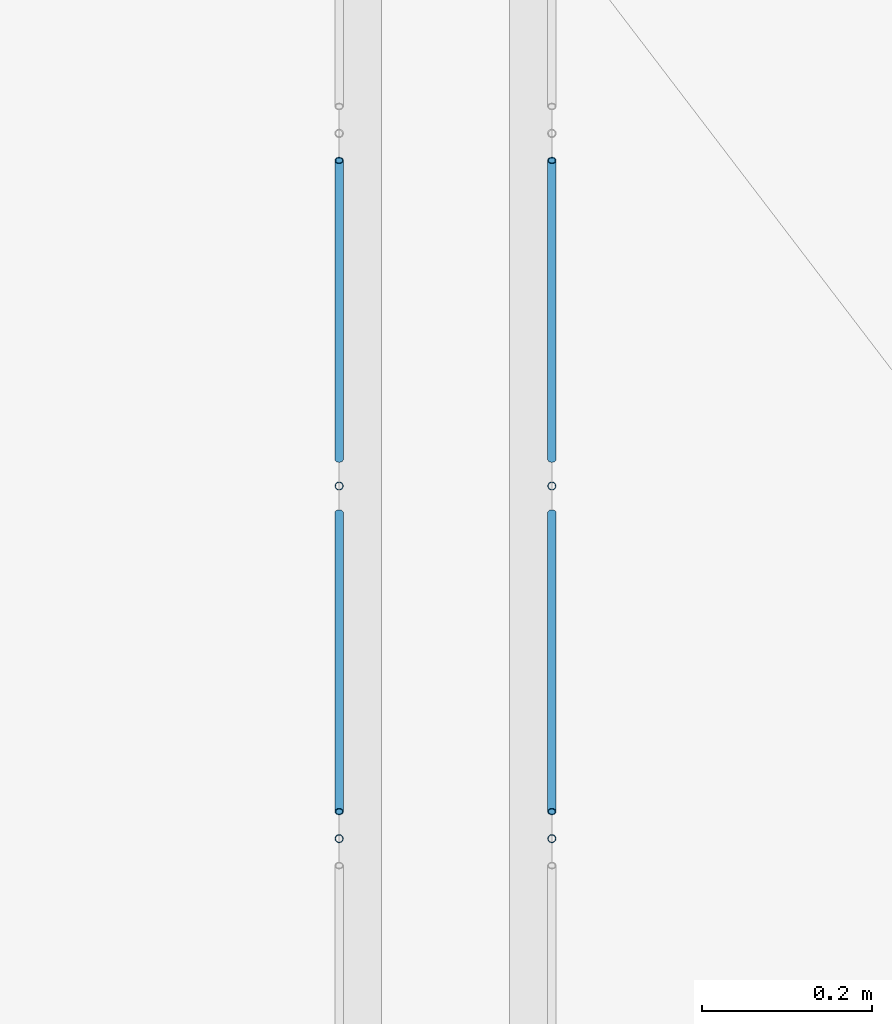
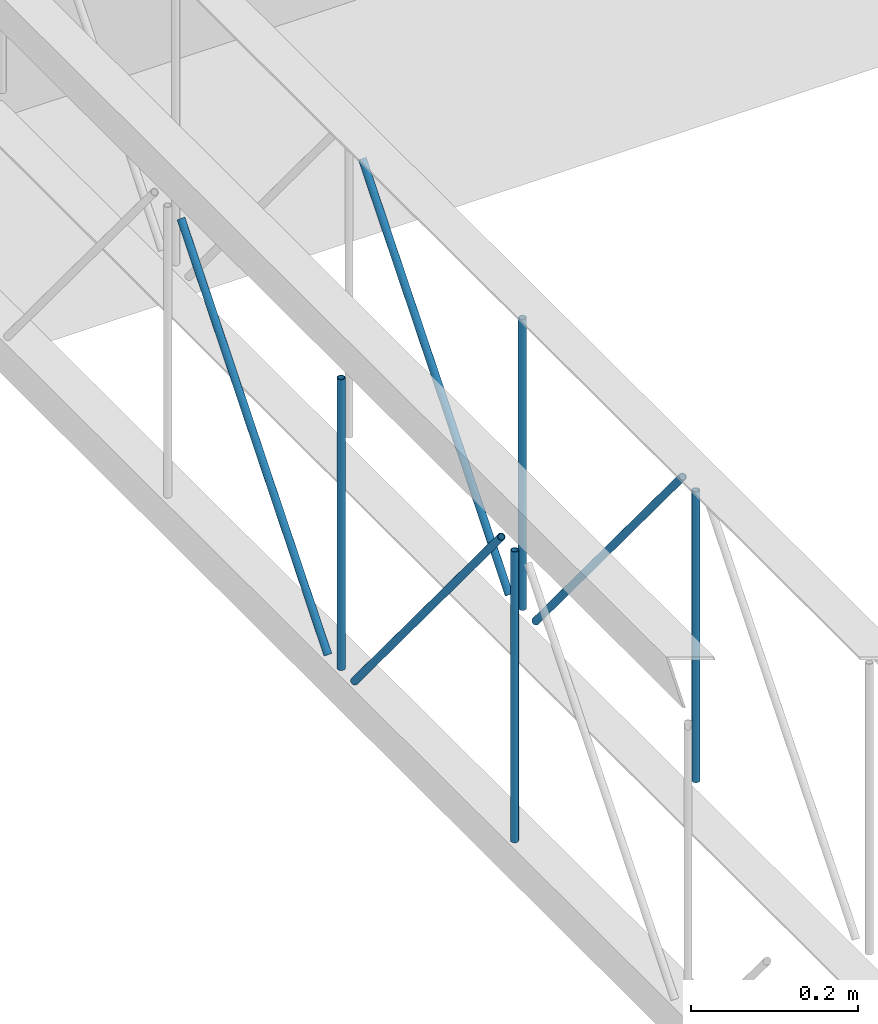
# One storey, part 96 of 153: 8 members, 2 elements without a shape of their own.
"""IFC4 building model written with IfcOpenShell, lengths in metres."""

from ifc_helpers import new_model, entity, si_unit, converted_unit, derived_unit, direction, frame, origin, place, context, subcontext, project, spatial, arc, indexed_curve, outline, extrude, source, transform, mapped, material, type_object, type_shapes, element, aggregate, save


model = new_model("IFC4")

# Units and contexts
model_context = context("Model", 3, precision=1e-05, world=origin(), true_north=direction((6.123031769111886e-17, 1.0)))
body_context = subcontext(model_context, "Body", "Model", "MODEL_VIEW")
ifc_project = project(units=[si_unit("LENGTHUNIT", "METRE"), si_unit("AREAUNIT", "SQUARE_METRE"), si_unit("VOLUMEUNIT", "CUBIC_METRE"), converted_unit("PLANEANGLEUNIT", "DEGREE", entity("IfcRatioMeasure", 0.017453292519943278), si_unit("PLANEANGLEUNIT", "RADIAN"), dimensions=[0, 0, 0, 0, 0, 0, 0]), si_unit("MASSUNIT", "GRAM", prefix="KILO"), derived_unit("MASSDENSITYUNIT", [(si_unit("MASSUNIT", "GRAM", prefix="KILO"), 1), (si_unit("LENGTHUNIT", "METRE"), -3)]), derived_unit("MOMENTOFINERTIAUNIT", [(si_unit("LENGTHUNIT", "METRE"), 4)]), si_unit("TIMEUNIT", "SECOND"), si_unit("FREQUENCYUNIT", "HERTZ"), si_unit("THERMODYNAMICTEMPERATUREUNIT", "DEGREE_CELSIUS"), derived_unit("THERMALTRANSMITTANCEUNIT", [(si_unit("MASSUNIT", "GRAM", prefix="KILO"), 1), (si_unit("THERMODYNAMICTEMPERATUREUNIT", "KELVIN"), -1), (si_unit("TIMEUNIT", "SECOND"), -3)]), derived_unit("VOLUMETRICFLOWRATEUNIT", [(si_unit("LENGTHUNIT", "METRE"), 3), (si_unit("TIMEUNIT", "SECOND"), -1)]), derived_unit("MASSFLOWRATEUNIT", [(si_unit("MASSUNIT", "GRAM", prefix="KILO"), 1), (si_unit("TIMEUNIT", "SECOND"), -1)]), derived_unit("ROTATIONALFREQUENCYUNIT", [(si_unit("TIMEUNIT", "SECOND"), -1)]), si_unit("ELECTRICCURRENTUNIT", "AMPERE"), si_unit("ELECTRICVOLTAGEUNIT", "VOLT"), si_unit("POWERUNIT", "WATT"), si_unit("FORCEUNIT", "NEWTON", prefix="KILO"), si_unit("ILLUMINANCEUNIT", "LUX"), si_unit("LUMINOUSFLUXUNIT", "LUMEN"), si_unit("LUMINOUSINTENSITYUNIT", "CANDELA"), derived_unit("USERDEFINED", [(si_unit("MASSUNIT", "GRAM", prefix="KILO"), -1), (si_unit("LENGTHUNIT", "METRE"), -2), (si_unit("TIMEUNIT", "SECOND"), 3), (si_unit("LUMINOUSFLUXUNIT", "LUMEN"), 1)]), derived_unit("SOUNDPOWERUNIT", [(si_unit("MASSUNIT", "GRAM", prefix="KILO"), 1), (si_unit("LENGTHUNIT", "METRE"), 2), (si_unit("TIMEUNIT", "SECOND"), -3)]), derived_unit("SOUNDPRESSUREUNIT", [(si_unit("MASSUNIT", "GRAM", prefix="KILO"), 1), (si_unit("LENGTHUNIT", "METRE"), -1), (si_unit("TIMEUNIT", "SECOND"), -2)]), derived_unit("LINEARVELOCITYUNIT", [(si_unit("LENGTHUNIT", "METRE"), 1), (si_unit("TIMEUNIT", "SECOND"), -1)]), si_unit("PRESSUREUNIT", "PASCAL"), derived_unit("USERDEFINED", [(si_unit("LENGTHUNIT", "METRE"), -2), (si_unit("MASSUNIT", "GRAM", prefix="KILO"), 1), (si_unit("TIMEUNIT", "SECOND"), -2)]), derived_unit("LINEARFORCEUNIT", [(si_unit("MASSUNIT", "GRAM", prefix="KILO"), 1), (si_unit("LENGTHUNIT", "METRE"), 1), (si_unit("TIMEUNIT", "SECOND"), -2), (si_unit("LENGTHUNIT", "METRE"), -1)]), derived_unit("PLANARFORCEUNIT", [(si_unit("MASSUNIT", "GRAM", prefix="KILO"), 1), (si_unit("LENGTHUNIT", "METRE"), 1), (si_unit("TIMEUNIT", "SECOND"), -2), (si_unit("LENGTHUNIT", "METRE"), -2)])], contexts=[model_context])

# Site, building, storey
site_placement = place(None, origin())
site = spatial("IfcSite", under=ifc_project, at=site_placement, Name="Superficie", CompositionType="ELEMENT")
building_placement = place(site_placement, origin())
building = spatial("IfcBuilding", under=site, at=building_placement, CompositionType="ELEMENT")
storey_placement = place(building_placement, frame((0.0, 0.0, 3.5999999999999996)))
storey = spatial("IfcBuildingStorey", under=building, at=storey_placement, Name="Nivel 1", CompositionType="ELEMENT", Elevation=3.5999999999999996)

# Assembly, members
assembly_1_placement = place(storey_placement, origin())
assembly_1 = element("IfcElementAssembly", 1, at=assembly_1_placement, inside=storey, Name="Viga de celosia 13:Viga de celosia 13", ObjectType="Viga de celosia 13:Viga de celosia 13", AssemblyPlace="NOTDEFINED", PredefinedType="TRUSS")
ifc_material = material(Name="Metal - Calibre delgado", Category="Metal")
member_type_1 = type_object("IfcMemberType", Name="HSS-Tubo estructural redondo:HSS 0.01", PredefinedType="BRACE", material=ifc_material)
shared_shape_1 = source(origin(), body_context, "Body", "SweptSolid", [
    extrude(outline(indexed_curve([(-0.005000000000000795, 7.502054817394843e-18), (-9.800269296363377e-18, -0.005000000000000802), (0.005000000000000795, -7.502054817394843e-18), (8.07772287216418e-18, 0.005000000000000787)], segments=[arc(1, 2, 3), arc(3, 4, 1)], self_intersect=False), holes=[indexed_curve([(0.003999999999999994, 7.222511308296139e-17), (6.910645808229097e-17, -0.004000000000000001), (-0.003999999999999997, -1.8650054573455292e-17), (-2.9156497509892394e-17, 0.003999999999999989)], segments=[arc(1, 2, 3), arc(3, 4, 1)], self_intersect=False)]), frame((-0.21200000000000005, 0.0, 0.0), z_axis=(1.0, 0.0, 0.0), x_axis=(0.0, 1.0, 0.0)), (0.0, 0.0, 1.0), 0.4240000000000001),
])
type_shapes(member_type_1, [shared_shape_1])
member_1_placement = place(assembly_1_placement, frame((15.83679901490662, -4.990991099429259, 0.25), z_axis=(0.0, 1.0, 0.0), x_axis=(0.0, 0.0, 1.0)))
member_1 = element("IfcMember", 2, at=member_1_placement, type_object=member_type_1, material=ifc_material, Name="HSS-Tubo estructural redondo:HSS 0.01", ObjectType="HSS-Tubo estructural redondo:HSS 0.01", PredefinedType="BRACE", context=body_context, shape_type="MappedRepresentation", body=[
    mapped(shared_shape_1, transform((0.0, 0.0, 0.0), scale=1.0)),
])
member_2_placement = place(assembly_1_placement, frame((15.83679901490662, -4.5766450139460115, 0.25), z_axis=(0.0, 1.0, 0.0), x_axis=(0.0, 0.0, 1.0)))
member_2 = element("IfcMember", 3, at=member_2_placement, type_object=member_type_1, material=ifc_material, Name="HSS-Tubo estructural redondo:HSS 0.01", ObjectType="HSS-Tubo estructural redondo:HSS 0.01", PredefinedType="BRACE", context=body_context, shape_type="MappedRepresentation", body=[
    mapped(shared_shape_1, transform((0.0, 0.0, 0.0), scale=1.0)),
])
member_type_2 = type_object("IfcMemberType", Name="HSS-Tubo estructural redondo:HSS 0.01", PredefinedType="BRACE", material=ifc_material)
shared_shape_2 = source(origin(), body_context, "Body", "SweptSolid", [
    extrude(outline(indexed_curve([(-0.005000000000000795, 7.502054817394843e-18), (-9.800269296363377e-18, -0.005000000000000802), (0.005000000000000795, -7.502054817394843e-18), (8.07772287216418e-18, 0.005000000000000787)], segments=[arc(1, 2, 3), arc(3, 4, 1)], self_intersect=False), holes=[indexed_curve([(0.003999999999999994, 7.222511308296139e-17), (6.910645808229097e-17, -0.004000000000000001), (-0.003999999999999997, -1.8650054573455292e-17), (-2.9156497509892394e-17, 0.003999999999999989)], segments=[arc(1, 2, 3), arc(3, 4, 1)], self_intersect=False)]), frame((-0.275, 0.0, 0.0), z_axis=(1.0, 0.0, 0.0), x_axis=(0.0, 1.0, 0.0)), (0.0, 0.0, 1.0), 0.55),
])
type_shapes(member_type_2, [shared_shape_2])
member_3_placement = place(assembly_1_placement, frame((15.83679901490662, -4.783818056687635, 0.25000000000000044), z_axis=(0.0, -0.7699758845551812, -0.6380729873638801), x_axis=(0.0, 0.6380729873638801, -0.7699758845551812)))
member_3 = element("IfcMember", 4, at=member_3_placement, type_object=member_type_2, material=ifc_material, Name="HSS-Tubo estructural redondo:HSS 0.01", ObjectType="HSS-Tubo estructural redondo:HSS 0.01", PredefinedType="BRACE", context=body_context, shape_type="MappedRepresentation", body=[
    mapped(shared_shape_2, transform((0.0, 0.0, 0.0), scale=1.0)),
])
member_4_placement = place(assembly_1_placement, frame((15.83679901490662, -4.3694719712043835, 0.2500000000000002), z_axis=(0.0, 0.7699758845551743, -0.6380729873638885), x_axis=(0.0, 0.6380729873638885, 0.7699758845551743)))
member_4 = element("IfcMember", 5, at=member_4_placement, type_object=member_type_2, material=ifc_material, Name="HSS-Tubo estructural redondo:HSS 0.01", ObjectType="HSS-Tubo estructural redondo:HSS 0.01", PredefinedType="BRACE", context=body_context, shape_type="MappedRepresentation", body=[
    mapped(shared_shape_2, transform((0.0, 0.0, 0.0), scale=1.0)),
])
aggregate(assembly_1, [member_1, member_2, member_3, member_4])

assembly_2_placement = place(storey_placement, origin())
assembly_2 = element("IfcElementAssembly", 6, at=assembly_2_placement, inside=storey, Name="Viga de celosia 13:Viga de celosia 13", ObjectType="Viga de celosia 13:Viga de celosia 13", AssemblyPlace="NOTDEFINED", PredefinedType="TRUSS")
member_type_3 = type_object("IfcMemberType", Name="HSS-Tubo estructural redondo:HSS 0.01", PredefinedType="BRACE", material=ifc_material)
shared_shape_3 = source(origin(), body_context, "Body", "SweptSolid", [
    extrude(outline(indexed_curve([(-0.005000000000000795, 2.0824731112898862e-17), (-2.3122945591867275e-17, -0.005000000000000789), (0.005000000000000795, -2.08247311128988e-17), (2.14003991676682e-17, 0.005000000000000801)], segments=[arc(1, 2, 3), arc(3, 4, 1)], self_intersect=False), holes=[indexed_curve([(0.003999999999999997, -1.3094283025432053e-17), (-1.531427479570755e-18, -0.003999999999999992), (-0.004, 4.0098531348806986e-17), (4.1481388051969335e-17, 0.0039999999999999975)], segments=[arc(1, 2, 3), arc(3, 4, 1)], self_intersect=False)]), frame((-0.21200000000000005, 0.0, 0.0), z_axis=(1.0, 0.0, 0.0), x_axis=(0.0, -1.0, 0.0)), (0.0, 0.0, 1.0), 0.4240000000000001),
])
type_shapes(member_type_3, [shared_shape_3])
member_5_placement = place(assembly_2_placement, frame((16.086799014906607, -4.990991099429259, 0.25), z_axis=(0.0, 1.0, 0.0), x_axis=(0.0, 0.0, 1.0)))
member_5 = element("IfcMember", 7, at=member_5_placement, type_object=member_type_3, material=ifc_material, Name="HSS-Tubo estructural redondo:HSS 0.01", ObjectType="HSS-Tubo estructural redondo:HSS 0.01", PredefinedType="BRACE", context=body_context, shape_type="MappedRepresentation", body=[
    mapped(shared_shape_3, transform((0.0, 0.0, 0.0), scale=1.0)),
])
member_6_placement = place(assembly_2_placement, frame((16.086799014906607, -4.5766450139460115, 0.25), z_axis=(0.0, 1.0, 0.0), x_axis=(0.0, 0.0, 1.0)))
member_6 = element("IfcMember", 8, at=member_6_placement, type_object=member_type_3, material=ifc_material, Name="HSS-Tubo estructural redondo:HSS 0.01", ObjectType="HSS-Tubo estructural redondo:HSS 0.01", PredefinedType="BRACE", context=body_context, shape_type="MappedRepresentation", body=[
    mapped(shared_shape_3, transform((0.0, 0.0, 0.0), scale=1.0)),
])
member_type_4 = type_object("IfcMemberType", Name="HSS-Tubo estructural redondo:HSS 0.01", PredefinedType="BRACE", material=ifc_material)
shared_shape_4 = source(origin(), body_context, "Body", "SweptSolid", [
    extrude(outline(indexed_curve([(-0.005000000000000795, 2.0824731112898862e-17), (-2.3122945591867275e-17, -0.005000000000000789), (0.005000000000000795, -2.08247311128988e-17), (2.14003991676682e-17, 0.005000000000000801)], segments=[arc(1, 2, 3), arc(3, 4, 1)], self_intersect=False), holes=[indexed_curve([(0.003999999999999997, -1.3094283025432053e-17), (-1.531427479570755e-18, -0.003999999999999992), (-0.004, 4.0098531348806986e-17), (4.1481388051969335e-17, 0.0039999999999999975)], segments=[arc(1, 2, 3), arc(3, 4, 1)], self_intersect=False)]), frame((-0.275, 0.0, 0.0), z_axis=(1.0, 0.0, 0.0), x_axis=(0.0, -1.0, 0.0)), (0.0, 0.0, 1.0), 0.55),
])
type_shapes(member_type_4, [shared_shape_4])
member_7_placement = place(assembly_2_placement, frame((16.086799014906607, -4.783818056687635, 0.25000000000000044), z_axis=(0.0, -0.7699758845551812, -0.6380729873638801), x_axis=(0.0, 0.6380729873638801, -0.7699758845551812)))
member_7 = element("IfcMember", 9, at=member_7_placement, type_object=member_type_4, material=ifc_material, Name="HSS-Tubo estructural redondo:HSS 0.01", ObjectType="HSS-Tubo estructural redondo:HSS 0.01", PredefinedType="BRACE", context=body_context, shape_type="MappedRepresentation", body=[
    mapped(shared_shape_4, transform((0.0, 0.0, 0.0), scale=1.0)),
])
member_8_placement = place(assembly_2_placement, frame((16.086799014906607, -4.3694719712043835, 0.2500000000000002), z_axis=(0.0, 0.7699758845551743, -0.6380729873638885), x_axis=(0.0, 0.6380729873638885, 0.7699758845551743)))
member_8 = element("IfcMember", 10, at=member_8_placement, type_object=member_type_4, material=ifc_material, Name="HSS-Tubo estructural redondo:HSS 0.01", ObjectType="HSS-Tubo estructural redondo:HSS 0.01", PredefinedType="BRACE", context=body_context, shape_type="MappedRepresentation", body=[
    mapped(shared_shape_4, transform((0.0, 0.0, 0.0), scale=1.0)),
])
aggregate(assembly_2, [member_5, member_6, member_7, member_8])

save(model, "model.ifc")
